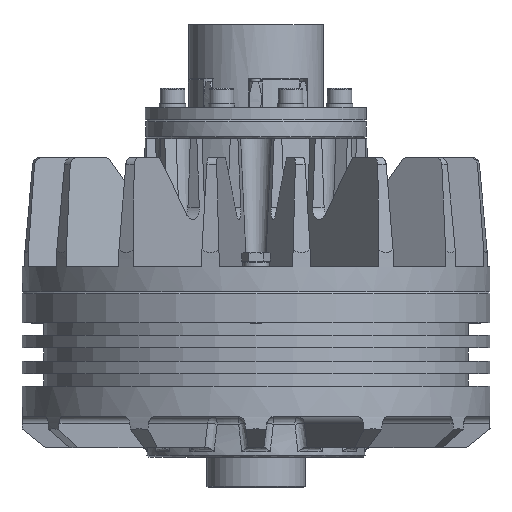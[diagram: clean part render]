
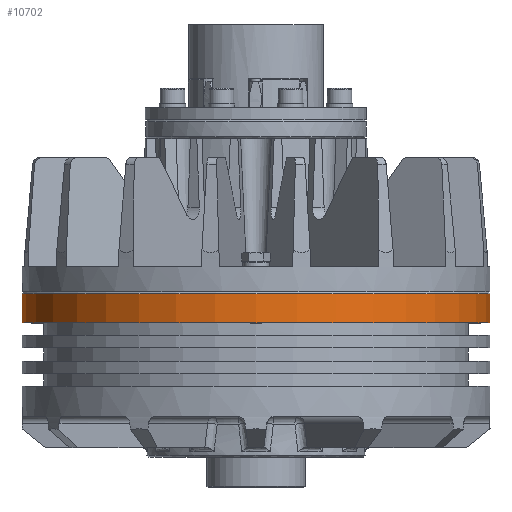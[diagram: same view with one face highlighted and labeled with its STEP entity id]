
A CAD part, front view. The second image highlights one B-rep face of the part: STEP entity #10702.
In plain terms, the highlighted cylindrical face has radius 95.25 mm (diameter 190.5 mm), a full revolution.
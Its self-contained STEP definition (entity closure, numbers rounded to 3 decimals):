
#1197=FACE_BOUND('',#2949,.T.);
#1497=CIRCLE('',#11704,95.25);
#1515=CIRCLE('',#11769,95.25);
#1761=CYLINDRICAL_SURFACE('',#11770,95.25);
#2226=FACE_OUTER_BOUND('',#2948,.T.);
#2948=EDGE_LOOP('',(#9271));
#2949=EDGE_LOOP('',(#9272));
#5230=VERTEX_POINT('',#19751);
#5304=VERTEX_POINT('',#20130);
#6579=EDGE_CURVE('',#5230,#5230,#1497,.T.);
#6657=EDGE_CURVE('',#5304,#5304,#1515,.T.);
#9271=ORIENTED_EDGE('',*,*,#6579,.T.);
#9272=ORIENTED_EDGE('',*,*,#6657,.F.);
#10702=ADVANCED_FACE('',(#2226,#1197),#1761,.T.);
#11704=AXIS2_PLACEMENT_3D('',#19752,#14226,#14227);
#11769=AXIS2_PLACEMENT_3D('',#20131,#14356,#14357);
#11770=AXIS2_PLACEMENT_3D('',#20132,#14358,#14359);
#14226=DIRECTION('center_axis',(0.,0.,
1.));
#14227=DIRECTION('ref_axis',(1.,0.,0.));
#14356=DIRECTION('center_axis',(0.,0.,
1.));
#14357=DIRECTION('ref_axis',(1.,0.,0.));
#14358=DIRECTION('center_axis',(0.,0.,
-1.));
#14359=DIRECTION('ref_axis',(1.,0.,0.));
#19751=CARTESIAN_POINT('',(-95.25,0.,54.61));
#19752=CARTESIAN_POINT('Origin',(0.,0.,
54.61));
#20130=CARTESIAN_POINT('',(-95.25,0.,66.548));
#20131=CARTESIAN_POINT('Origin',(0.,0.,
66.548));
#20132=CARTESIAN_POINT('Origin',(0.,0.,
67.31));
